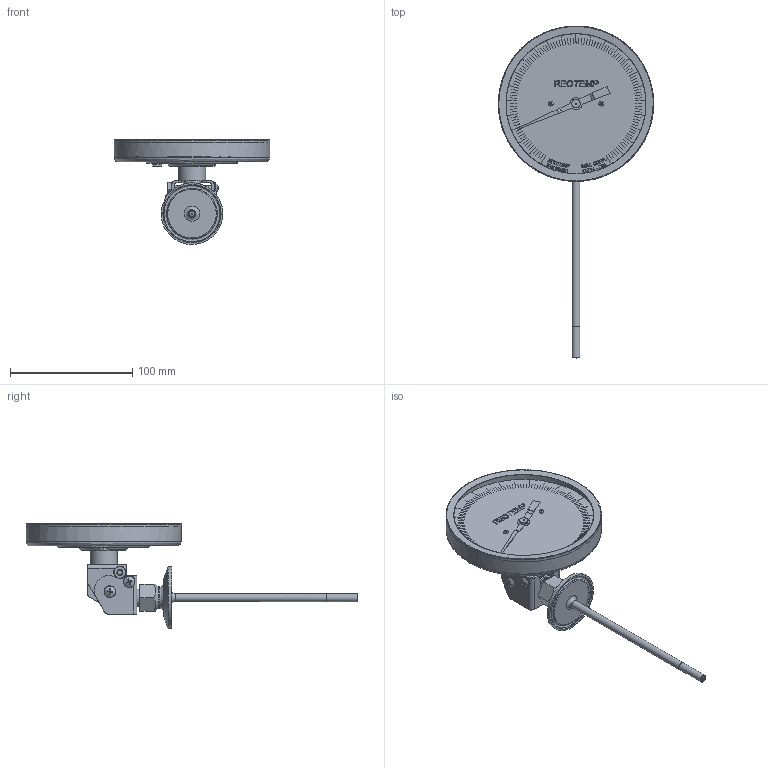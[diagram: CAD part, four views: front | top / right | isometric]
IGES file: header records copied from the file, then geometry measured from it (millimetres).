
Global section: file name: JJ-1in-SANITARY-IGS; native system: Autodesk Inventor 2014; preprocessor: unknown; author: Charles; date: 20151109.151608; units: inch
Bounding box: 127 x 271.3 x 85.76 mm (x, y, z)
Volume: 134960.8 mm3; surface area: 93001.7 mm2
Topology: 35 solids, 35 shells, 1736 faces, 4540 edges, 3014 vertices
Faces by surface type: bspline 1736
